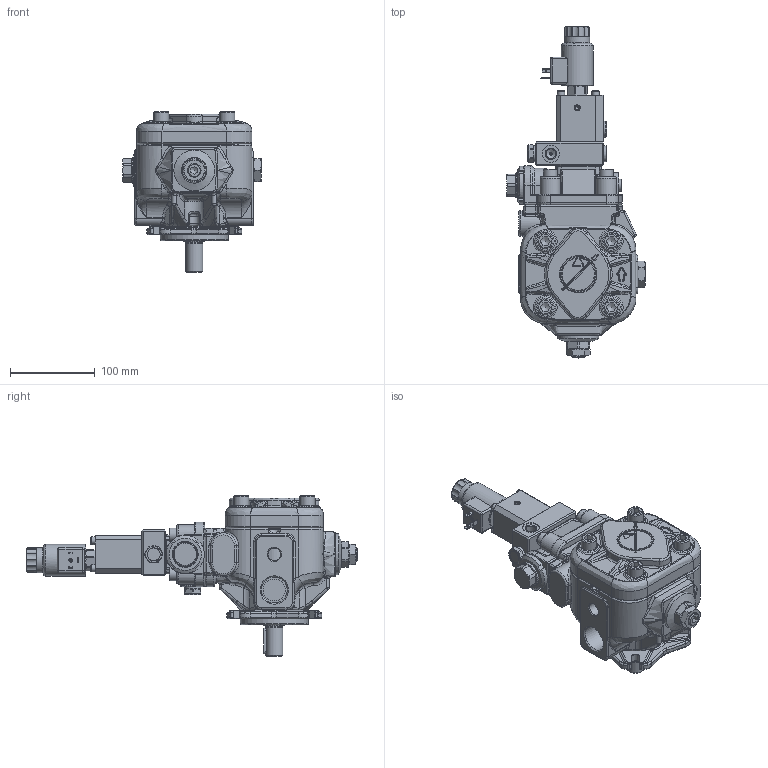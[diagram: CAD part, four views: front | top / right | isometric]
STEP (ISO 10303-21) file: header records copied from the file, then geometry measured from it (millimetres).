
FILE_DESCRIPTION(/* description */ (''),/* implementation_level */ '2;1');
FILE_NAME(/* name */ 'W:\Tecnico\Archivio\Berarma\Dimensioni Pompe\3D Export\Montaggio 3D semplificato\PLP-PHP 05\PHP05 FHRM PCLS005.stp',/* time_stamp */ '2018-10-10T15:15:50+02:00',/* author */ ('marcop'),/* organization */ (''),/* preprocessor_version */ 'ST-DEVELOPER v17',/* originating_system */ 'Autodesk Inventor 2018',/* authorisation */ '');
FILE_SCHEMA (('AUTOMOTIVE_DESIGN { 1 0 10303 214 3 1 1 }'));
Length unit declared in the file: millimetre
Products named in the file (1): PHP05_Shrinkwrap_1
Bounding box: 163.3 x 391.15 x 189 mm (x, y, z)
Volume: 2394351.6 mm3; surface area: 257828.8 mm2
Topology: 2 solids, 2 shells, 2514 faces, 6407 edges, 3893 vertices
Faces by surface type: plane 898, cylinder 556, bspline 441, torus 299, cone 261, sphere 59
Full cylindrical faces by diameter (mm): 1.6 x3, 1.7 x4, 2.5 x1, 3 x1, 3.242 x1, 4 x3, 4.3 x1, 5 x7, 6 x2, 6.5 x4, 7.2 x13, 8 x1, 8.5 x8, 9 x4, 9.5 x1, 11.049 x1, 11.1 x1, 11.445 x4, 12 x3, 13 x1, 14 x1, 14.5 x1, 14.95 x1, 15 x2, 15.5 x2, 16 x5, 16.376 x1, 16.5 x4, 16.789 x1, 17 x1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
Entity records: 93529 total; most frequent: CARTESIAN_POINT 33058, ORIENTED_EDGE 12598, DIRECTION 11691, EDGE_CURVE 6299, AXIS2_PLACEMENT_3D 4651, VERTEX_POINT 3893, EDGE_LOOP 2691, CIRCLE 2537
